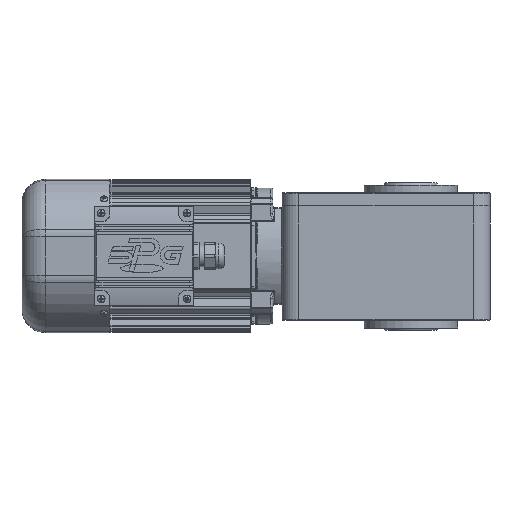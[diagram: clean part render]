
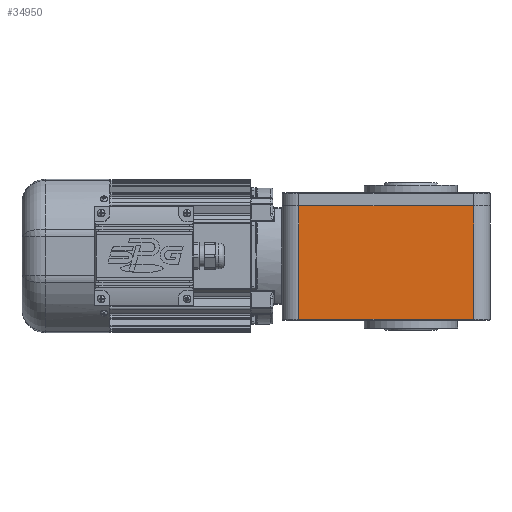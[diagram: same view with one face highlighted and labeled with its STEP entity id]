
A CAD part, front view. The second image highlights one B-rep face of the part: STEP entity #34950.
In plain terms, the highlighted planar face has unit normal (0, -1, 0).
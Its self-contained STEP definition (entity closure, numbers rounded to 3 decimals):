
#1100=LINE('',#56348,#3621);
#1199=LINE('',#56944,#3720);
#1206=LINE('',#56977,#3727);
#1207=LINE('',#56979,#3728);
#3621=VECTOR('',#42589,159.);
#3720=VECTOR('',#43166,159.);
#3727=VECTOR('',#43205,103.);
#3728=VECTOR('',#43208,103.);
#7297=FACE_OUTER_BOUND('',#9418,.T.);
#9418=EDGE_LOOP('',(#23906,#23907,#23908,#23909));
#13983=VERTEX_POINT('',#56345);
#13984=VERTEX_POINT('',#56347);
#14161=VERTEX_POINT('',#56904);
#14170=VERTEX_POINT('',#56942);
#17526=EDGE_CURVE('',#13983,#13984,#1100,.T.);
#17786=EDGE_CURVE('',#14170,#14161,#1199,.T.);
#17803=EDGE_CURVE('',#13983,#14161,#1206,.T.);
#17804=EDGE_CURVE('',#13984,#14170,#1207,.T.);
#23906=ORIENTED_EDGE('',*,*,#17786,.F.);
#23907=ORIENTED_EDGE('',*,*,#17804,.F.);
#23908=ORIENTED_EDGE('',*,*,#17526,.F.);
#23909=ORIENTED_EDGE('',*,*,#17803,.T.);
#32211=PLANE('',#37530);
#34950=ADVANCED_FACE('',(#7297),#32211,.T.);
#37530=AXIS2_PLACEMENT_3D('',#56978,#43206,#43207);
#42589=DIRECTION('',(1.,0.,0.));
#43166=DIRECTION('',(-1.,0.,0.));
#43205=DIRECTION('',(0.,0.,-1.));
#43206=DIRECTION('center_axis',(0.,-1.,0.));
#43207=DIRECTION('ref_axis',(0.,0.,-1.));
#43208=DIRECTION('',(0.,0.,-1.));
#56345=CARTESIAN_POINT('',(-102.,-104.,45.5));
#56347=CARTESIAN_POINT('',(57.,-104.,45.5));
#56348=CARTESIAN_POINT('',(-102.,-104.,45.5));
#56904=CARTESIAN_POINT('',(-102.,-104.,-57.5));
#56942=CARTESIAN_POINT('',(57.,-104.,-57.5));
#56944=CARTESIAN_POINT('',(57.,-104.,-57.5));
#56977=CARTESIAN_POINT('',(-102.,-104.,45.5));
#56978=CARTESIAN_POINT('Origin',(57.,-104.,0.));
#56979=CARTESIAN_POINT('',(57.,-104.,45.5));
